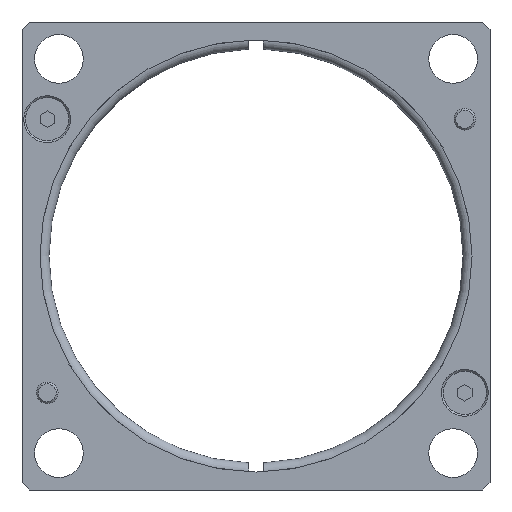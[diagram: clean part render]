
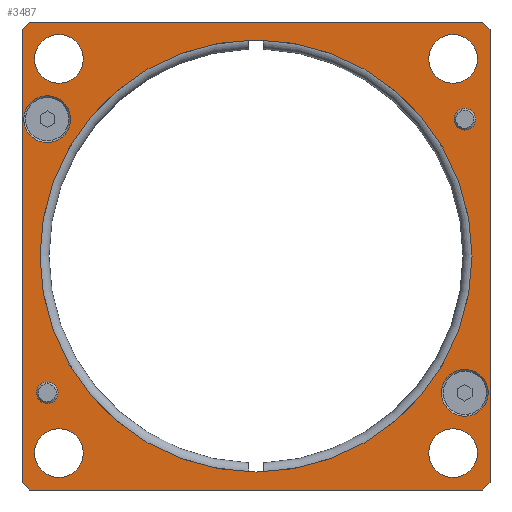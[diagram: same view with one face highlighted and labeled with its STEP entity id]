
A CAD part, front view. The second image highlights one B-rep face of the part: STEP entity #3487.
In plain terms, the highlighted planar face has unit normal (0, -1, 0) as drawn and (0, 0, -1) by its records, which use the part's own axes.
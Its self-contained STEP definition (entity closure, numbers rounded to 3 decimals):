
#133=FACE_BOUND('',#424,.T.);
#134=FACE_BOUND('',#425,.T.);
#135=FACE_BOUND('',#426,.T.);
#136=FACE_BOUND('',#427,.T.);
#137=FACE_BOUND('',#428,.T.);
#138=FACE_BOUND('',#429,.T.);
#139=FACE_BOUND('',#430,.T.);
#140=FACE_BOUND('',#431,.T.);
#141=FACE_BOUND('',#432,.T.);
#167=CIRCLE('',#3757,60.);
#175=CIRCLE('',#3767,6.5);
#177=CIRCLE('',#3770,6.5);
#178=CIRCLE('',#3771,3.);
#179=CIRCLE('',#3772,3.);
#180=CIRCLE('',#3773,6.75);
#181=CIRCLE('',#3774,6.75);
#182=CIRCLE('',#3775,6.75);
#183=CIRCLE('',#3776,6.75);
#225=FACE_OUTER_BOUND('',#423,.T.);
#423=EDGE_LOOP('',(#2363,#2364,#2365,#2366,#2367,#2368,#2369,#2370));
#424=EDGE_LOOP('',(#2371));
#425=EDGE_LOOP('',(#2372));
#426=EDGE_LOOP('',(#2373));
#427=EDGE_LOOP('',(#2374));
#428=EDGE_LOOP('',(#2375));
#429=EDGE_LOOP('',(#2376));
#430=EDGE_LOOP('',(#2377));
#431=EDGE_LOOP('',(#2378));
#432=EDGE_LOOP('',(#2379));
#654=LINE('',#4691,#979);
#655=LINE('',#4693,#980);
#656=LINE('',#4695,#981);
#657=LINE('',#4697,#982);
#658=LINE('',#4699,#983);
#659=LINE('',#4701,#984);
#660=LINE('',#4703,#985);
#661=LINE('',#4704,#986);
#979=VECTOR('',#3964,10.);
#980=VECTOR('',#3965,10.);
#981=VECTOR('',#3966,10.);
#982=VECTOR('',#3967,10.);
#983=VECTOR('',#3968,10.);
#984=VECTOR('',#3969,10.);
#985=VECTOR('',#3970,10.);
#986=VECTOR('',#3971,10.);
#1465=VERTEX_POINT('',#4667);
#1469=VERTEX_POINT('',#4683);
#1471=VERTEX_POINT('',#4689);
#1472=VERTEX_POINT('',#4690);
#1473=VERTEX_POINT('',#4692);
#1474=VERTEX_POINT('',#4694);
#1475=VERTEX_POINT('',#4696);
#1476=VERTEX_POINT('',#4698);
#1477=VERTEX_POINT('',#4700);
#1478=VERTEX_POINT('',#4702);
#1479=VERTEX_POINT('',#4705);
#1480=VERTEX_POINT('',#4707);
#1481=VERTEX_POINT('',#4709);
#1482=VERTEX_POINT('',#4711);
#1483=VERTEX_POINT('',#4713);
#1484=VERTEX_POINT('',#4715);
#1485=VERTEX_POINT('',#4717);
#1814=EDGE_CURVE('',#1465,#1465,#167,.T.);
#1824=EDGE_CURVE('',#1469,#1469,#175,.T.);
#1827=EDGE_CURVE('',#1471,#1472,#654,.T.);
#1828=EDGE_CURVE('',#1471,#1473,#655,.T.);
#1829=EDGE_CURVE('',#1474,#1473,#656,.T.);
#1830=EDGE_CURVE('',#1474,#1475,#657,.T.);
#1831=EDGE_CURVE('',#1476,#1475,#658,.T.);
#1832=EDGE_CURVE('',#1476,#1477,#659,.T.);
#1833=EDGE_CURVE('',#1478,#1477,#660,.T.);
#1834=EDGE_CURVE('',#1478,#1472,#661,.T.);
#1835=EDGE_CURVE('',#1479,#1479,#177,.T.);
#1836=EDGE_CURVE('',#1480,#1480,#178,.T.);
#1837=EDGE_CURVE('',#1481,#1481,#179,.T.);
#1838=EDGE_CURVE('',#1482,#1482,#180,.T.);
#1839=EDGE_CURVE('',#1483,#1483,#181,.T.);
#1840=EDGE_CURVE('',#1484,#1484,#182,.T.);
#1841=EDGE_CURVE('',#1485,#1485,#183,.T.);
#2363=ORIENTED_EDGE('',*,*,#1827,.F.);
#2364=ORIENTED_EDGE('',*,*,#1828,.T.);
#2365=ORIENTED_EDGE('',*,*,#1829,.F.);
#2366=ORIENTED_EDGE('',*,*,#1830,.T.);
#2367=ORIENTED_EDGE('',*,*,#1831,.F.);
#2368=ORIENTED_EDGE('',*,*,#1832,.T.);
#2369=ORIENTED_EDGE('',*,*,#1833,.F.);
#2370=ORIENTED_EDGE('',*,*,#1834,.T.);
#2371=ORIENTED_EDGE('',*,*,#1835,.F.);
#2372=ORIENTED_EDGE('',*,*,#1836,.T.);
#2373=ORIENTED_EDGE('',*,*,#1837,.T.);
#2374=ORIENTED_EDGE('',*,*,#1814,.T.);
#2375=ORIENTED_EDGE('',*,*,#1838,.T.);
#2376=ORIENTED_EDGE('',*,*,#1839,.T.);
#2377=ORIENTED_EDGE('',*,*,#1840,.T.);
#2378=ORIENTED_EDGE('',*,*,#1841,.T.);
#2379=ORIENTED_EDGE('',*,*,#1824,.F.);
#3385=PLANE('',#3769);
#3487=ADVANCED_FACE('',(#225,#133,#134,#135,#136,#137,#138,#139,#140,#141),
#3385,.F.);
#3757=AXIS2_PLACEMENT_3D('',#4668,#3935,#3936);
#3767=AXIS2_PLACEMENT_3D('',#4684,#3957,#3958);
#3769=AXIS2_PLACEMENT_3D('',#4688,#3962,#3963);
#3770=AXIS2_PLACEMENT_3D('',#4706,#3972,#3973);
#3771=AXIS2_PLACEMENT_3D('',#4708,#3974,#3975);
#3772=AXIS2_PLACEMENT_3D('',#4710,#3976,#3977);
#3773=AXIS2_PLACEMENT_3D('',#4712,#3978,#3979);
#3774=AXIS2_PLACEMENT_3D('',#4714,#3980,#3981);
#3775=AXIS2_PLACEMENT_3D('',#4716,#3982,#3983);
#3776=AXIS2_PLACEMENT_3D('',#4718,#3984,#3985);
#3935=DIRECTION('center_axis',(0.,0.,1.));
#3936=DIRECTION('ref_axis',(-1.,0.,0.));
#3957=DIRECTION('center_axis',(0.,0.,-1.));
#3958=DIRECTION('ref_axis',(1.,0.,0.));
#3962=DIRECTION('center_axis',(0.,0.,1.));
#3963=DIRECTION('ref_axis',(1.,0.,0.));
#3964=DIRECTION('',(-0.707,0.707,0.));
#3965=DIRECTION('',(0.,-1.,0.));
#3966=DIRECTION('',(0.707,0.707,0.));
#3967=DIRECTION('',(-1.,0.,0.));
#3968=DIRECTION('',(0.707,-0.707,0.));
#3969=DIRECTION('',(0.,1.,0.));
#3970=DIRECTION('',(-0.707,-0.707,0.));
#3971=DIRECTION('',(1.,0.,0.));
#3972=DIRECTION('center_axis',(0.,0.,-1.));
#3973=DIRECTION('ref_axis',(1.,0.,0.));
#3974=DIRECTION('center_axis',(0.,0.,1.));
#3975=DIRECTION('ref_axis',(1.,0.,0.));
#3976=DIRECTION('center_axis',(0.,0.,1.));
#3977=DIRECTION('ref_axis',(1.,0.,0.));
#3978=DIRECTION('center_axis',(0.,0.,1.));
#3979=DIRECTION('ref_axis',(-1.,0.,0.));
#3980=DIRECTION('center_axis',(0.,0.,1.));
#3981=DIRECTION('ref_axis',(-1.,0.,0.));
#3982=DIRECTION('center_axis',(0.,0.,1.));
#3983=DIRECTION('ref_axis',(-1.,0.,0.));
#3984=DIRECTION('center_axis',(0.,0.,1.));
#3985=DIRECTION('ref_axis',(-1.,0.,0.));
#4667=CARTESIAN_POINT('',(60.,0.,0.));
#4668=CARTESIAN_POINT('Origin',(0.,0.,0.));
#4683=CARTESIAN_POINT('',(-64.5,-38.,0.));
#4684=CARTESIAN_POINT('Origin',(-58.,-38.,0.));
#4688=CARTESIAN_POINT('Origin',(0.,0.,
0.));
#4689=CARTESIAN_POINT('',(65.,63.,0.));
#4690=CARTESIAN_POINT('',(63.,65.,0.));
#4691=CARTESIAN_POINT('',(64.,64.,0.));
#4692=CARTESIAN_POINT('',(65.,-63.,0.));
#4693=CARTESIAN_POINT('',(65.,65.,0.));
#4694=CARTESIAN_POINT('',(63.,-65.,0.));
#4695=CARTESIAN_POINT('',(64.,-64.,0.));
#4696=CARTESIAN_POINT('',(-63.,-65.,0.));
#4697=CARTESIAN_POINT('',(65.,-65.,0.));
#4698=CARTESIAN_POINT('',(-65.,-63.,0.));
#4699=CARTESIAN_POINT('',(-64.,-64.,0.));
#4700=CARTESIAN_POINT('',(-65.,63.,0.));
#4701=CARTESIAN_POINT('',(-65.,-65.,0.));
#4702=CARTESIAN_POINT('',(-63.,65.,0.));
#4703=CARTESIAN_POINT('',(-64.,64.,0.));
#4704=CARTESIAN_POINT('',(-65.,65.,0.));
#4705=CARTESIAN_POINT('',(51.5,38.,0.));
#4706=CARTESIAN_POINT('Origin',(58.,38.,0.));
#4707=CARTESIAN_POINT('',(55.,-38.,0.));
#4708=CARTESIAN_POINT('Origin',(58.,-38.,0.));
#4709=CARTESIAN_POINT('',(-61.,38.,0.));
#4710=CARTESIAN_POINT('Origin',(-58.,38.,0.));
#4711=CARTESIAN_POINT('',(61.5,-54.75,0.));
#4712=CARTESIAN_POINT('Origin',(54.75,-54.75,0.));
#4713=CARTESIAN_POINT('',(-48.,-54.75,0.));
#4714=CARTESIAN_POINT('Origin',(-54.75,-54.75,0.));
#4715=CARTESIAN_POINT('',(61.5,54.75,0.));
#4716=CARTESIAN_POINT('Origin',(54.75,54.75,0.));
#4717=CARTESIAN_POINT('',(-48.,54.75,0.));
#4718=CARTESIAN_POINT('Origin',(-54.75,54.75,0.));
